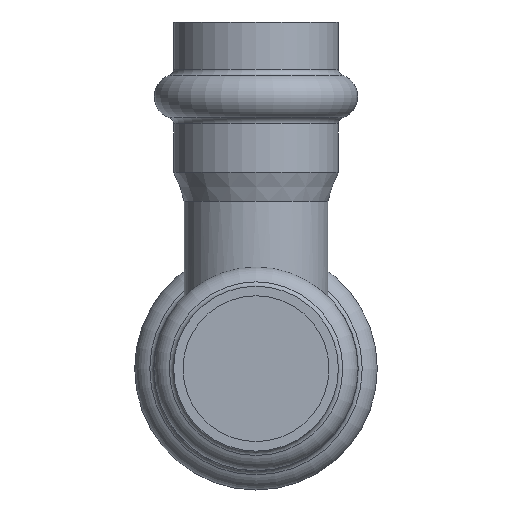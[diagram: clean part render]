
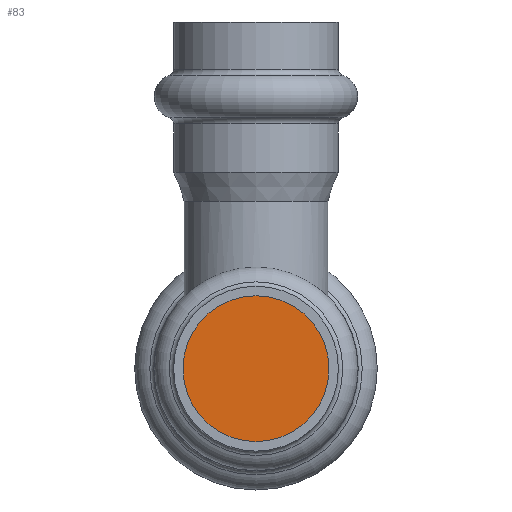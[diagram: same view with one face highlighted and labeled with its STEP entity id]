
A CAD part, front view. The second image highlights one B-rep face of the part: STEP entity #83.
In plain terms, the highlighted planar face has unit normal (0, -1, 0).
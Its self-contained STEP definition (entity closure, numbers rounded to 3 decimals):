
#83=ADVANCED_FACE('',(#352),#354,.T.);
#352=FACE_BOUND('',#353,.T.);
#353=EDGE_LOOP('',(#420));
#354=PLANE('',#355);
#355=AXIS2_PLACEMENT_3D('',#356,#357,#358);
#356=CARTESIAN_POINT('',(0.,-104.779,0.));
#357=DIRECTION('',(0.,-1.,0.));
#358=DIRECTION('',(0.,0.,-1.));
#420=ORIENTED_EDGE('',*,*,#451,.T.);
#451=EDGE_CURVE('',#512,#512,#513,.F.);
#512=VERTEX_POINT('',#797);
#513=CIRCLE('',#798,11.15);
#797=CARTESIAN_POINT('',(0.,-104.779,11.15));
#798=AXIS2_PLACEMENT_3D('',#799,#800,#801);
#799=CARTESIAN_POINT('',(0.,-104.779,0.));
#800=DIRECTION('',(0.,1.,0.));
#801=DIRECTION('',(0.,0.,1.));
